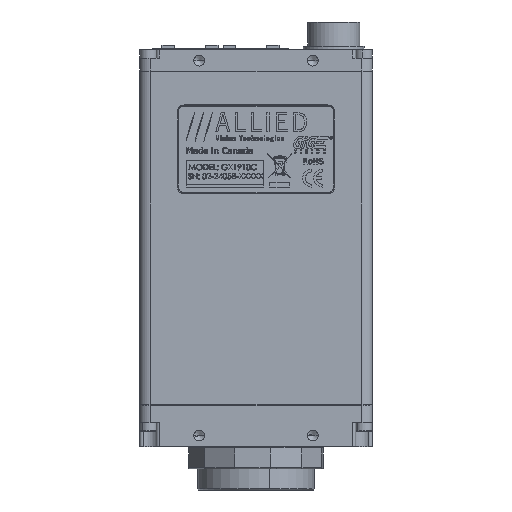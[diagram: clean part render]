
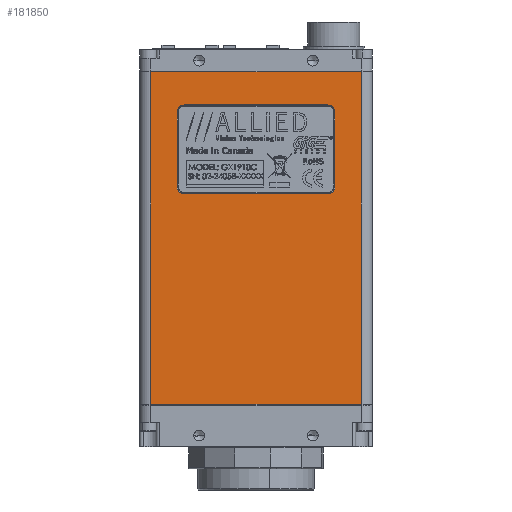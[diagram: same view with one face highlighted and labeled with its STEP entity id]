
A CAD part, front view. The second image highlights one B-rep face of the part: STEP entity #181850.
In plain terms, the highlighted planar face has unit normal (0, -1, 0).
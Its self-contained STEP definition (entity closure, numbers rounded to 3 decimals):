
#7919 = CARTESIAN_POINT ( 'NONE',  ( -16.447, -10.16, 30.48 ) ) ;
#11770 = VERTEX_POINT ( 'NONE', #92500 ) ;
#13749 = VERTEX_POINT ( 'NONE', #61207 ) ;
#14340 = CARTESIAN_POINT ( 'NONE',  ( 16.447, -10.16, 28.893 ) ) ;
#15559 = CARTESIAN_POINT ( 'NONE',  ( 24.13, -10.16, -92.399 ) ) ;
#16119 = CARTESIAN_POINT ( 'NONE',  ( -16.447, -10.16, 28.893 ) ) ;
#17581 = VERTEX_POINT ( 'NONE', #140452 ) ;
#23523 = CARTESIAN_POINT ( 'NONE',  ( 16.447, -10.16, 11.748 ) ) ;
#23647 = VECTOR ( 'NONE', #57989, 1000. ) ;
#25172 = VERTEX_POINT ( 'NONE', #198115 ) ;
#26370 = ORIENTED_EDGE ( 'NONE', *, *, #168705, .T. ) ;
#27614 = ORIENTED_EDGE ( 'NONE', *, *, #90073, .T. ) ;
#30129 = ORIENTED_EDGE ( 'NONE', *, *, #187043, .T. ) ;
#31016 = DIRECTION ( 'NONE',  ( 1., 0., 0. ) ) ;
#32293 = DIRECTION ( 'NONE',  ( 1., 0., 0. ) ) ;
#32842 = DIRECTION ( 'NONE',  ( 1., 0., 0. ) ) ;
#34474 = CARTESIAN_POINT ( 'NONE',  ( -24.13, -10.16, 38.1 ) ) ;
#36259 = LINE ( 'NONE', #164937, #75551 ) ;
#36831 = AXIS2_PLACEMENT_3D ( 'NONE', #16119, #132871, #32842 ) ;
#38849 = CARTESIAN_POINT ( 'NONE',  ( -18.034, -10.16, 11.748 ) ) ;
#39333 = EDGE_CURVE ( 'NONE', #167306, #165355, #81220, .T. ) ;
#39560 = ORIENTED_EDGE ( 'NONE', *, *, #39333, .T. ) ;
#40180 = EDGE_CURVE ( 'NONE', #11770, #99196, #127514, .T. ) ;
#40197 = DIRECTION ( 'NONE',  ( 1., 0., 0. ) ) ;
#40879 = EDGE_CURVE ( 'NONE', #63885, #25172, #36259, .T. ) ;
#43410 = CARTESIAN_POINT ( 'NONE',  ( -16.447, -10.16, 11.748 ) ) ;
#45025 = ORIENTED_EDGE ( 'NONE', *, *, #181639, .T. ) ;
#46692 = LINE ( 'NONE', #125272, #169611 ) ;
#49940 = LINE ( 'NONE', #64704, #138882 ) ;
#52456 = EDGE_LOOP ( 'NONE', ( #27614, #45025, #90782, #201337 ) ) ;
#52707 = DIRECTION ( 'NONE',  ( 1., 0., 0. ) ) ;
#54645 = ORIENTED_EDGE ( 'NONE', *, *, #151990, .T. ) ;
#57989 = DIRECTION ( 'NONE',  ( 0., 0., -1. ) ) ;
#60224 = DIRECTION ( 'NONE',  ( 1., 0., 0. ) ) ;
#61207 = CARTESIAN_POINT ( 'NONE',  ( 18.034, -10.16, 11.748 ) ) ;
#63885 = VERTEX_POINT ( 'NONE', #213014 ) ;
#64704 = CARTESIAN_POINT ( 'NONE',  ( 24.13, -10.16, 30.48 ) ) ;
#65896 = LINE ( 'NONE', #206787, #105138 ) ;
#66745 = VERTEX_POINT ( 'NONE', #154135 ) ;
#68010 = LINE ( 'NONE', #73463, #23647 ) ;
#68598 = EDGE_LOOP ( 'NONE', ( #202234, #68933, #26370, #191273, #54645, #72740, #30129, #39560 ) ) ;
#68933 = ORIENTED_EDGE ( 'NONE', *, *, #172524, .T. ) ;
#71767 = CARTESIAN_POINT ( 'NONE',  ( 24.13, -10.16, 10.16 ) ) ;
#72740 = ORIENTED_EDGE ( 'NONE', *, *, #40180, .T. ) ;
#73463 = CARTESIAN_POINT ( 'NONE',  ( 18.034, -10.16, -92.399 ) ) ;
#75551 = VECTOR ( 'NONE', #81652, 1000. ) ;
#76725 = AXIS2_PLACEMENT_3D ( 'NONE', #23523, #140319, #40197 ) ;
#81220 = LINE ( 'NONE', #90990, #120305 ) ;
#81652 = DIRECTION ( 'NONE',  ( 0., 0., 1. ) ) ;
#84409 = FACE_OUTER_BOUND ( 'NONE', #52456, .T. ) ;
#90073 = EDGE_CURVE ( 'NONE', #25172, #175830, #46692, .T. ) ;
#90782 = ORIENTED_EDGE ( 'NONE', *, *, #105240, .T. ) ;
#90823 = DIRECTION ( 'NONE',  ( 0., 0., -1. ) ) ;
#90990 = CARTESIAN_POINT ( 'NONE',  ( -18.034, -10.16, -92.399 ) ) ;
#92500 = CARTESIAN_POINT ( 'NONE',  ( 16.447, -10.16, 10.16 ) ) ;
#93918 = CARTESIAN_POINT ( 'NONE',  ( 16.447, -10.16, 30.48 ) ) ;
#97092 = CIRCLE ( 'NONE', #109464, 1.587 ) ;
#99196 = VERTEX_POINT ( 'NONE', #191206 ) ;
#105138 = VECTOR ( 'NONE', #90823, 1000. ) ;
#105240 = EDGE_CURVE ( 'NONE', #17581, #63885, #215330, .T. ) ;
#109464 = AXIS2_PLACEMENT_3D ( 'NONE', #43410, #160293, #60224 ) ;
#116059 = CIRCLE ( 'NONE', #76725, 1.587 ) ;
#119953 = EDGE_CURVE ( 'NONE', #66745, #13749, #68010, .T. ) ;
#120305 = VECTOR ( 'NONE', #174361, 1000. ) ;
#122075 = CIRCLE ( 'NONE', #180079, 1.587 ) ;
#125272 = CARTESIAN_POINT ( 'NONE',  ( 24.13, -10.16, 38.1 ) ) ;
#127514 = LINE ( 'NONE', #71767, #205712 ) ;
#131049 = DIRECTION ( 'NONE',  ( 0., 1., 0. ) ) ;
#132310 = DIRECTION ( 'NONE',  ( 0., -1., 0. ) ) ;
#132871 = DIRECTION ( 'NONE',  ( 0., 1., 0. ) ) ;
#138882 = VECTOR ( 'NONE', #181595, 1000. ) ;
#140319 = DIRECTION ( 'NONE',  ( 0., 1., 0. ) ) ;
#140452 = CARTESIAN_POINT ( 'NONE',  ( -24.13, -10.16, -38.1 ) ) ;
#141715 = AXIS2_PLACEMENT_3D ( 'NONE', #15559, #132310, #32293 ) ;
#142092 = DIRECTION ( 'NONE',  ( -1., 0., 0. ) ) ;
#151990 = EDGE_CURVE ( 'NONE', #13749, #11770, #116059, .T. ) ;
#154135 = CARTESIAN_POINT ( 'NONE',  ( 18.034, -10.16, 28.893 ) ) ;
#160293 = DIRECTION ( 'NONE',  ( 0., 1., 0. ) ) ;
#164937 = CARTESIAN_POINT ( 'NONE',  ( 24.13, -10.16, -92.399 ) ) ;
#165355 = VERTEX_POINT ( 'NONE', #166781 ) ;
#166781 = CARTESIAN_POINT ( 'NONE',  ( -18.034, -10.16, 28.893 ) ) ;
#167306 = VERTEX_POINT ( 'NONE', #38849 ) ;
#168705 = EDGE_CURVE ( 'NONE', #182682, #66745, #122075, .T. ) ;
#169611 = VECTOR ( 'NONE', #142092, 1000. ) ;
#172338 = CIRCLE ( 'NONE', #36831, 1.587 ) ;
#172524 = EDGE_CURVE ( 'NONE', #211613, #182682, #49940, .T. ) ;
#173335 = FACE_BOUND ( 'NONE', #68598, .T. ) ;
#174361 = DIRECTION ( 'NONE',  ( 0., 0., 1. ) ) ;
#175830 = VERTEX_POINT ( 'NONE', #34474 ) ;
#180079 = AXIS2_PLACEMENT_3D ( 'NONE', #14340, #131049, #31016 ) ;
#181595 = DIRECTION ( 'NONE',  ( 1., 0., 0. ) ) ;
#181639 = EDGE_CURVE ( 'NONE', #175830, #17581, #65896, .T. ) ;
#181850 = ADVANCED_FACE ( 'NONE', ( #84409, #173335 ), #197233, .T. ) ;
#182682 = VERTEX_POINT ( 'NONE', #93918 ) ;
#187043 = EDGE_CURVE ( 'NONE', #99196, #167306, #97092, .T. ) ;
#191206 = CARTESIAN_POINT ( 'NONE',  ( -16.447, -10.16, 10.16 ) ) ;
#191273 = ORIENTED_EDGE ( 'NONE', *, *, #119953, .T. ) ;
#195957 = EDGE_CURVE ( 'NONE', #165355, #211613, #172338, .T. ) ;
#197233 = PLANE ( 'NONE',  #141715 ) ;
#198115 = CARTESIAN_POINT ( 'NONE',  ( 24.13, -10.16, 38.1 ) ) ;
#201337 = ORIENTED_EDGE ( 'NONE', *, *, #40879, .T. ) ;
#202234 = ORIENTED_EDGE ( 'NONE', *, *, #195957, .T. ) ;
#202324 = CARTESIAN_POINT ( 'NONE',  ( 24.13, -10.16, -38.1 ) ) ;
#205211 = DIRECTION ( 'NONE',  ( -1., 0., 0. ) ) ;
#205712 = VECTOR ( 'NONE', #205211, 1000. ) ;
#206787 = CARTESIAN_POINT ( 'NONE',  ( -24.13, -10.16, -92.399 ) ) ;
#210176 = VECTOR ( 'NONE', #52707, 1000. ) ;
#211613 = VERTEX_POINT ( 'NONE', #7919 ) ;
#213014 = CARTESIAN_POINT ( 'NONE',  ( 24.13, -10.16, -38.1 ) ) ;
#215330 = LINE ( 'NONE', #202324, #210176 ) ;
